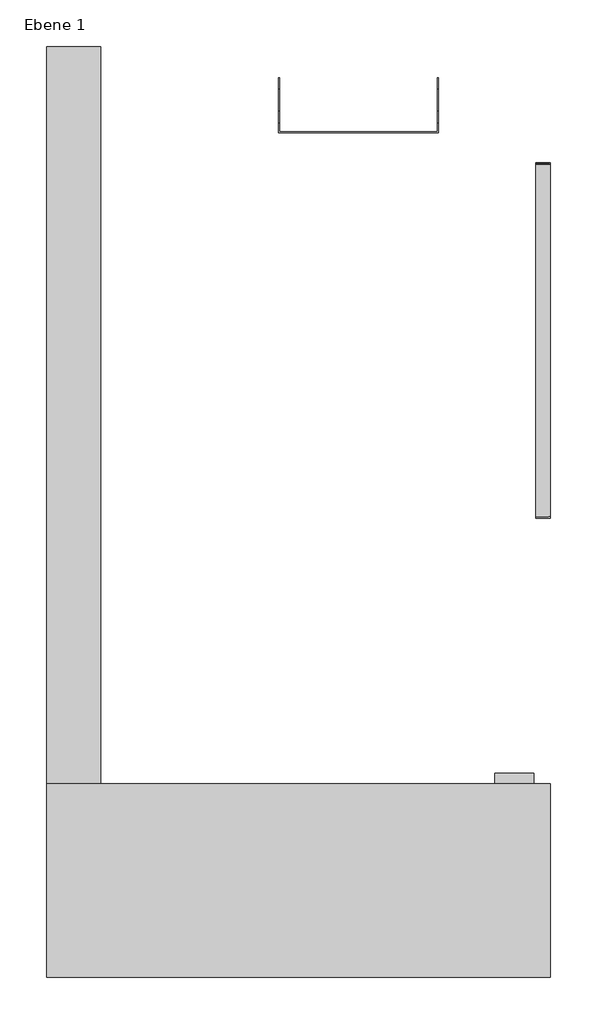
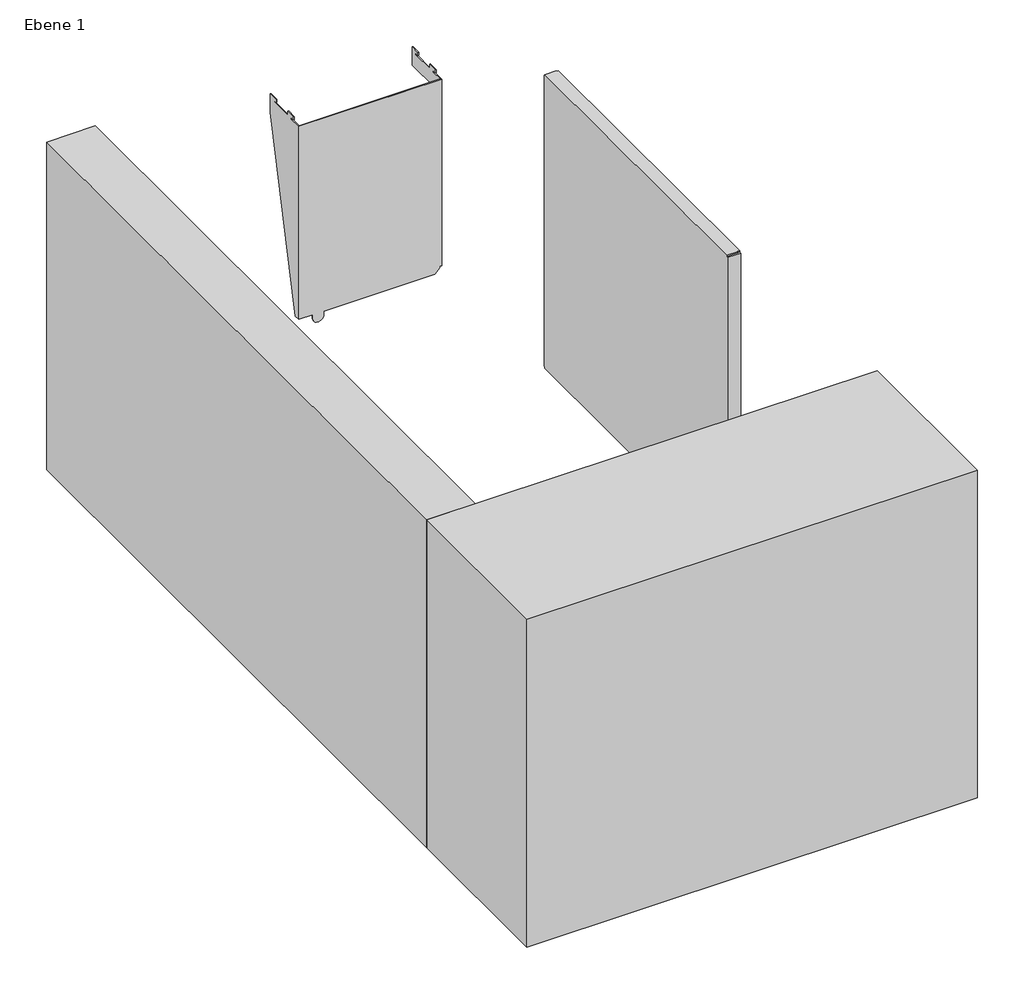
# One storey, incomplete: 5 proxies.
"""IFC4 building model written with IfcOpenShell, lengths in millimetres."""

from ifc_helpers import new_model, si_unit, origin, place, context, project, spatial, transform, mapped, element, save
from components import generic_models_6e9d71cf, generic_models_de27f77d, generic_models_fb11fd52, generic_models_26437f6a, generic_models_c230b21e

model = new_model("IFC4")

# Units and contexts
model_context = context("Model", 3, world=origin())
ifc_project = project(units=[si_unit("LENGTHUNIT", "METRE", prefix="MILLI")], contexts=[model_context])

# Site, building, storey
site = spatial("IfcSite", under=ifc_project)
building = spatial("IfcBuilding", under=site)
storey = spatial("IfcBuildingStorey", under=building, Name="Ebene 1", Elevation=0.0)

# Proxies
placement = place(None, origin())
generic_models_shape = generic_models_6e9d71cf(model_context)
element("IfcBuildingElementProxy", 1, Name="Installationsrahmen_70mm_2025-07-23", ObjectType="Installationsrahmen_70mm_2025-07-23", at=placement, inside=storey, context=model_context, shape_type="MappedRepresentation", body=[
    mapped(generic_models_shape, transform((-70.0, 185.0, 0.0), x_axis=(1.0, 0.0, 0.0), y_axis=(0.0, 1.0, 0.0), z_axis=(0.0, 0.0, 1.0))),
])
generic_models_2_shape = generic_models_de27f77d(model_context)
element("IfcBuildingElementProxy", 2, Name="046253_Strebe_Boden.003", ObjectType="046253_Strebe_Boden.003", at=placement, inside=storey, context=model_context, shape_type="MappedRepresentation", body=[
    mapped(generic_models_2_shape, transform((493.69, -0.6, 0.0), x_axis=(1.0, 0.0, 0.0), y_axis=(0.0, 1.0, 0.0), z_axis=(0.0, 0.0, 1.0))),
])
generic_models_3_shape = generic_models_fb11fd52(model_context)
element("IfcBuildingElementProxy", 3, Name="Platzhalter_Spuelkammer_Tuer_15.07.25", ObjectType="Platzhalter_Spuelkammer_Tuer_15.07.25", at=placement, inside=storey, context=model_context, shape_type="MappedRepresentation", body=[
    mapped(generic_models_3_shape, transform((580.0, 756.25, -250.0), x_axis=(0.0, 1.0, 0.0), y_axis=(-1.0, 0.0, 0.0), z_axis=(0.0, 0.0, 1.0))),
])
generic_models_4_shape = generic_models_26437f6a(model_context)
element("IfcBuildingElementProxy", 4, Name="046289_Konsole_fuer_Powerteil", ObjectType="046289_Konsole_fuer_Powerteil", at=placement, inside=storey, context=model_context, shape_type="MappedRepresentation", body=[
    mapped(generic_models_4_shape, transform((-1.375, 0.0, 0.0), x_axis=(1.0, 0.0, 0.0), y_axis=(0.0, 1.0, 0.0), z_axis=(0.0, 0.0, 1.0))),
])
generic_models_5_shape = generic_models_c230b21e(model_context)
element("IfcBuildingElementProxy", 5, Name="Sockel_250mm_2025-07-23", ObjectType="Sockel_250mm_2025-07-23", at=placement, inside=storey, context=model_context, shape_type="MappedRepresentation", body=[
    mapped(generic_models_5_shape, transform((-70.0, -65.0, -500.0), x_axis=(0.0, 1.0, 0.0), y_axis=(1.0, 0.0, 0.0), z_axis=(0.0, 0.0, -1.0))),
])

save(model, "model.ifc")
